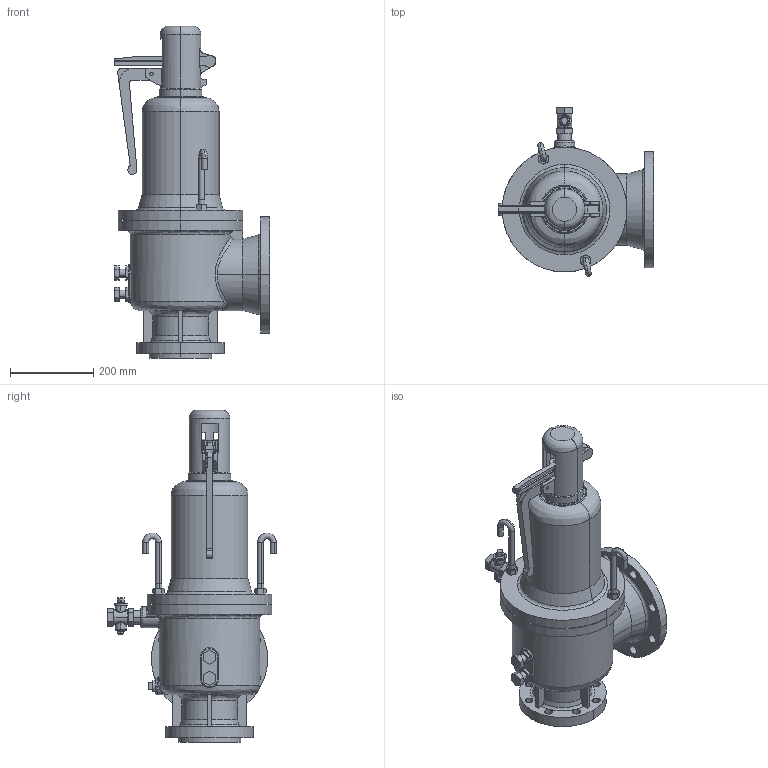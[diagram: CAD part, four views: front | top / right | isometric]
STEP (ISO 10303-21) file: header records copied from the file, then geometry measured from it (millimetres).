
FILE_DESCRIPTION( (''), '2;1');
FILE_NAME ('PC1027.9568.AF-4 100A_31628.stp','2025-07-28T12:52:55',(''),(''),'spGate 19.8.4 (****-****-****-****)','','');
FILE_SCHEMA (('AUTOMOTIVE_DESIGN'));
Length unit declared in the file: millimetre
Products named in the file (10): Assembly; AF-4 本体部P 100A; 止めボルト 100A; 背圧絞り弁 100A; プラグ 20A; フックボルト 100A; ナット M16; レバーキャップ 100A; レバー支え 100A; レバー 100A
Assembly tree (12 placements, depth 2):
  Assembly
    AF-4 本体部P 100A
    止めボルト 100A  x2
    背圧絞り弁 100A
    プラグ 20A
    フックボルト 100A  x2
    ナット M16  x2
    レバーキャップ 100A
    レバー支え 100A
    レバー 100A
Bounding box: 375 x 405.65 x 798.5 mm (x, y, z)
Volume: 25535676.6 mm3; surface area: 1037021.9 mm2
Topology: 12 solids, 12 shells, 510 faces, 1308 edges, 825 vertices
Faces by surface type: plane 194, cylinder 169, bspline 147
Entity records: 37568 total; most frequent: CARTESIAN_POINT 17519, ORIENTED_EDGE 2356, DIRECTION 2002, COLOUR_RGB 1652, PRESENTATION_STYLE_ASSIGNMENT 1652, STYLED_ITEM 1652, EDGE_CURVE 1178, DRAUGHTING_PRE_DEFINED_CURVE_FONT 1178
